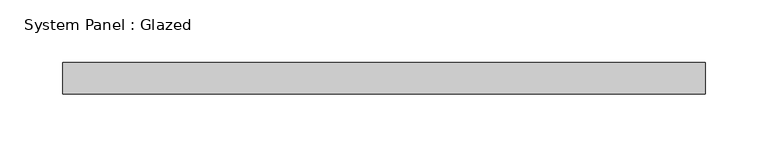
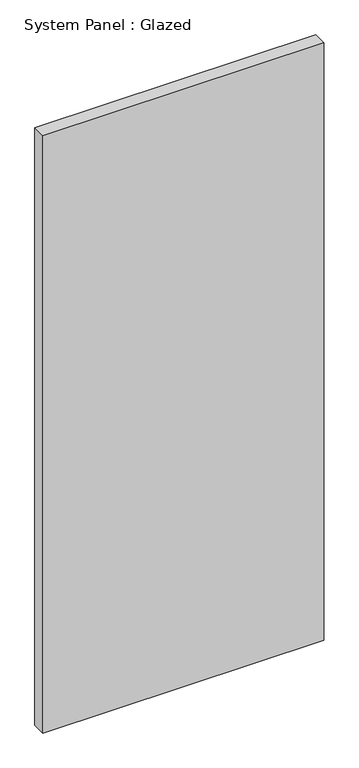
"""IFC4 building model written with IfcOpenShell, lengths in millimetres: plate geometry, System Panel : Glazed."""

from ifc_helpers import new_model, si_unit, origin, origin_with_axes, place, context, project, spatial, polyline, outline, extrude, source, transform, mapped, element, save


def system_panel_glazed_17912afe(model_context):
    return source(origin(), model_context, "Body", "SweptSolid", [
        extrude(outline(polyline([(257.175, 19.05), (-257.175, 19.05), (-257.175, 44.45), (257.175, 44.45), (257.175, 19.05)])), origin_with_axes(), (0.0, 0.0, 1.0), 1155.7),
    ])


if __name__ == "__main__":
    model = new_model("IFC4")
    model_context = context("Model", 3, world=origin())
    ifc_project = project(units=[si_unit("LENGTHUNIT", "METRE", prefix="MILLI")], contexts=[model_context])
    site = spatial("IfcSite", under=ifc_project)
    building = spatial("IfcBuilding", under=site)
    placement = place(None, origin())
    system_panel_glazed_shape = system_panel_glazed_17912afe(model_context)
    element("IfcPlate", 1, ObjectType="System Panel : Glazed", at=placement, inside=building, context=model_context, shape_type="MappedRepresentation", body=[
        mapped(system_panel_glazed_shape, transform((0.0, 0.0, 0.0), x_axis=(1.0, 0.0, 0.0), y_axis=(0.0, 1.0, 0.0), z_axis=(0.0, 0.0, 1.0))),
    ])
    save(model, "model.ifc")
